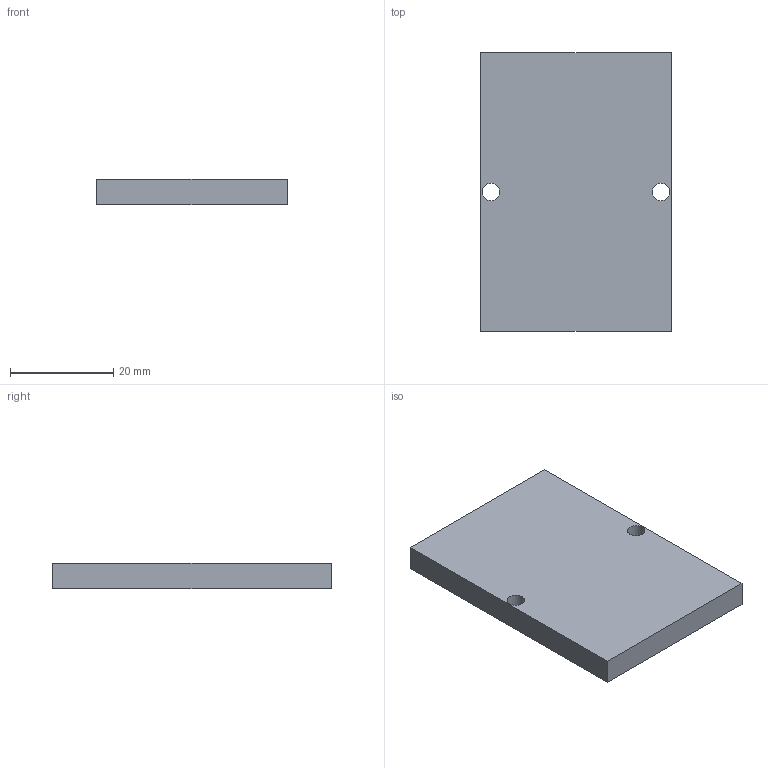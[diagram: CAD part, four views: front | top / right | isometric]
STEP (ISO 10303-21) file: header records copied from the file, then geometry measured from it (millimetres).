
FILE_DESCRIPTION(('Open CASCADE Model'),'2;1');
FILE_NAME('Open CASCADE Shape Model','2026-07-25T17:42:39',('Author'),( 'Open CASCADE'),'Open CASCADE STEP processor 7.9','build123d', 'Unknown');
FILE_SCHEMA(('AUTOMOTIVE_DESIGN { 1 0 10303 214 1 1 1 1 }'));
Length unit declared in the file: millimetre
Products named in the file (2): =>[0:1:1:2]; COMPOUND
Assembly tree (1 placements, depth 2):
  =>[0:1:1:2]
    COMPOUND
Bounding box: 37 x 54 x 5 mm (x, y, z)
Volume: 8557.6 mm3; surface area: 5132.1 mm2
Topology: 1 solids, 1 shells, 13 faces, 30 edges, 20 vertices
Faces by surface type: plane 11, cylinder 2
Full cylindrical faces by diameter (mm): 3.4 x2
Entity records: 786 total; most frequent: CARTESIAN_POINT 133, DIRECTION 116, LINE 74, VECTOR 74, ORIENTED_EDGE 60, PCURVE 60, DEFINITIONAL_REPRESENTATION 60, EDGE_CURVE 30
